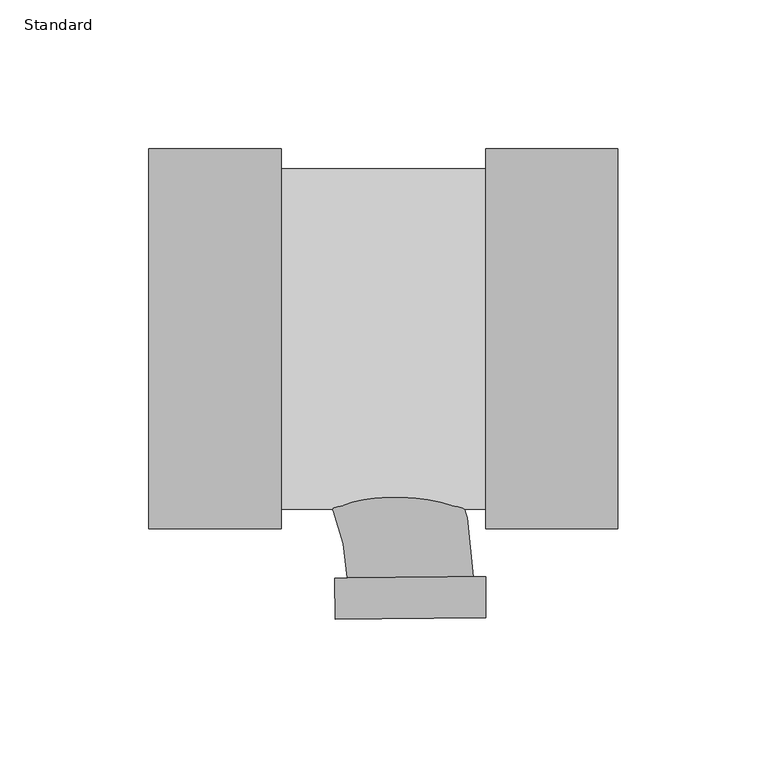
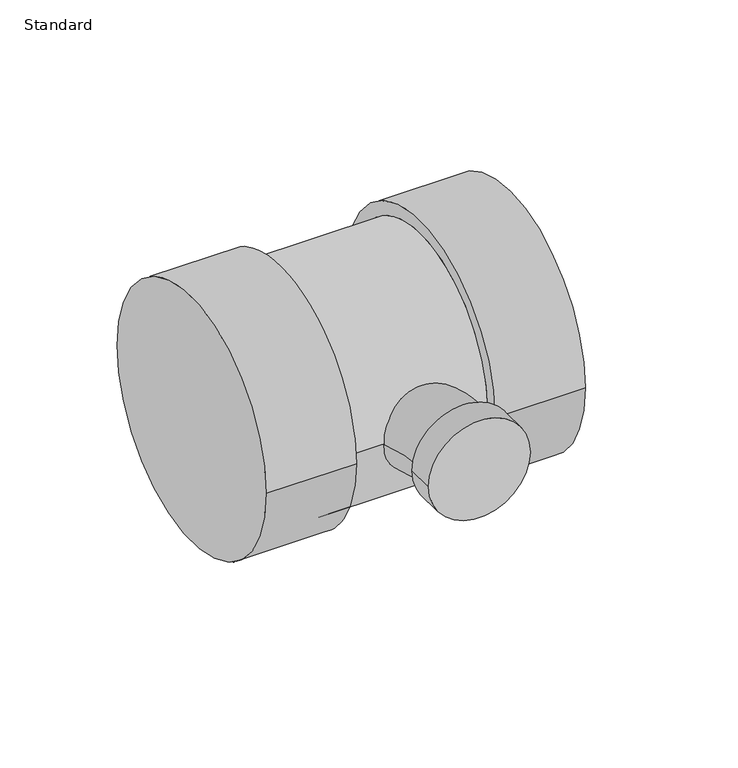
"""IFC4 building model written with IfcOpenShell, lengths in millimetres: pipe fitting geometry, EG-RCAN Té sanitaire de réduction - PVC - Nom. 40 - DWV : Standard."""

from ifc_helpers import new_model, si_unit, point, frame, origin, place, context, project, spatial, circle_curve, ellipse_curve, trimmed, source, transform, mapped, element, save
from ifc_brep_helpers import plane_surface, cylinder_surface, revolved_surface, advanced_brep


def standard_4615a4a5(model_context):
    return source(origin(), model_context, "Body", "AdvancedBrep", [
        advanced_brep(
        [(26.0660827, -63.754, 0.0), (26.0660827, 63.754, 0.0), (26.0660827, -57.15, 0.0), (26.0660827, 57.15, 0.0), (70.5160827, -63.754, 0.0), (70.5160827, 63.754, 0.0), (-42.4599062, 57.15, 0.0), (-42.4599062, -57.15, 0.0), (-86.9099063, -63.754, 0.0), (-86.9099062, 63.754, 0.0), (-42.4599063, -63.754, 0.0), (-42.4599062, 63.754, 0.0)],
        [
            (0, 1, circle_curve(frame((26.0660827, 0.0, 0.0), z_axis=(-1.0, 0.0, 0.0), x_axis=(0.0, 1.0, 0.0)), 63.754)),
            (1, 0, circle_curve(frame((26.0660827, 0.0, 0.0), z_axis=(-1.0, 0.0, 0.0), x_axis=(0.0, 1.0, 0.0)), 63.754)),
            (2, 3, circle_curve(frame((26.0660827, 0.0, 0.0), z_axis=(1.0, 0.0, 0.0), x_axis=(0.0, 0.0, -1.0)), 57.15)),
            (3, 2, circle_curve(frame((26.0660827, 0.0, 0.0), z_axis=(1.0, 0.0, 0.0), x_axis=(0.0, 0.0, 1.0)), 57.15)),
            (4, 5, circle_curve(frame((70.5160827, 0.0, 0.0), z_axis=(1.0, 0.0, 0.0), x_axis=(0.0, 1.0, 0.0)), 63.754)),
            (5, 4, circle_curve(frame((70.5160827, 0.0, 0.0), z_axis=(1.0, 0.0, 0.0), x_axis=(0.0, 1.0, 0.0)), 63.754)),
            (0, 4),
            (5, 1),
            (6, 3),
            (2, 7),
            (7, 6, circle_curve(frame((-42.4599063, 0.0, 0.0), z_axis=(1.0, 0.0, 0.0), x_axis=(0.0, 0.0, -1.0)), 57.15)),
            (6, 7, circle_curve(frame((-42.4599062, 0.0, 0.0), z_axis=(1.0, 0.0, 0.0), x_axis=(0.0, 0.0, 1.0)), 57.15)),
            (8, 9, circle_curve(frame((-86.9099062, 0.0, 0.0), z_axis=(-1.0, 0.0, 0.0), x_axis=(0.0, 1.0, 0.0)), 63.754)),
            (9, 8, circle_curve(frame((-86.9099062, 0.0, 0.0), z_axis=(-1.0, 0.0, 0.0), x_axis=(0.0, 1.0, 0.0)), 63.754)),
            (10, 11, circle_curve(frame((-42.4599062, 0.0, 0.0), z_axis=(1.0, 0.0, 0.0), x_axis=(0.0, 1.0, 0.0)), 63.754)),
            (11, 10, circle_curve(frame((-42.4599062, 0.0, 0.0), z_axis=(1.0, 0.0, 0.0), x_axis=(0.0, 1.0, 0.0)), 63.754)),
            (8, 10),
            (11, 9),
        ],
        [
            plane_surface(frame((26.0660827, 0.0, 0.0), z_axis=(-1.0, 0.0, 0.0), x_axis=(0.0, 0.0, 1.0))),
            plane_surface(frame((70.5160827, 0.0, 0.0), z_axis=(1.0, 0.0, 0.0), x_axis=(0.0, 0.0, 1.0))),
            cylinder_surface(frame((26.0660827, 0.0, 0.0), z_axis=(-1.0, 0.0, 0.0), x_axis=(0.0, 1.0, 0.0)), 63.754),
            cylinder_surface(frame((-42.4599062, 0.0, 0.0), z_axis=(1.0, 0.0, 0.0), x_axis=(0.0, 0.0, -1.0)), 57.15),
            cylinder_surface(frame((-42.4599062, 0.0, 0.0), z_axis=(1.0, 0.0, 0.0), x_axis=(0.0, 0.0, 1.0)), 57.15),
            plane_surface(frame((-86.9099062, 0.0, 0.0), z_axis=(-1.0, 0.0, 0.0), x_axis=(0.0, 0.0, 1.0))),
            plane_surface(frame((-42.4599062, 0.0, 0.0), z_axis=(1.0, 0.0, 0.0), x_axis=(0.0, 0.0, 1.0))),
            cylinder_surface(frame((-86.9099062, 0.0, 0.0), z_axis=(-1.0, 0.0, 0.0), x_axis=(0.0, 1.0, 0.0)), 63.754),
        ],
        [
            (0, [[1, 2], [3, 4]]),
            (1, [[5, 6]]),
            (2, [[-1, 7, -6, 8]]),
            (2, [[-2, -8, -5, -7]]),
            (3, [[9, -3, 10, 11]]),
            (4, [[-9, 12, -10, -4]]),
            (5, [[13, 14]]),
            (6, [[15, 16], [-11, -12]]),
            (7, [[-13, 17, -16, 18]]),
            (7, [[-14, -18, -15, -17]]),
        ],
    ),
        advanced_brep(
        [(-24.4656096, -80.2763136, 0.0), (26.0660827, -79.7709967, 0.0), (22.0032389, -79.8116251, 0.0), (-20.4027658, -80.2356852, 0.0), (-24.3282133, -94.0159392, 0.0), (26.2034789, -93.5106222, 0.0), (-80.0276562, -21.2040625, 0.0), (-80.0276562, 21.2040625, 0.0)],
        [
            (0, 1, circle_curve(frame((0.8002366, -80.0236552, 0.0), z_axis=(-0.009999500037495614, 0.9999500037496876, 0.0), x_axis=(0.9999500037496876, 0.009999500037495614, 0.0)), 25.2671094)),
            (1, 0, circle_curve(frame((0.8002366, -80.0236552, 0.0), z_axis=(-0.009999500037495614, 0.9999500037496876, 0.0), x_axis=(0.9999500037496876, 0.009999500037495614, 0.0)), 25.2671094)),
            (2, 3, circle_curve(frame((0.8002366, -80.0236552, 0.0), z_axis=(0.009999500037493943, -0.9999500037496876, 0.0), x_axis=(0.9999500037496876, 0.009999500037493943, 0.0)), 21.2040625)),
            (3, 2, circle_curve(frame((0.8002366, -80.0236552, 0.0), z_axis=(0.009999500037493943, -0.9999500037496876, 0.0), x_axis=(0.9999500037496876, 0.009999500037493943, 0.0)), 21.2040625)),
            (4, 5, circle_curve(frame((0.9376328, -93.7632807, 0.0), z_axis=(0.009999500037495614, -0.9999500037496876, 0.0), x_axis=(0.9999500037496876, 0.009999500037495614, 0.0)), 25.2671094)),
            (5, 4, circle_curve(frame((0.9376328, -93.7632807, 0.0), z_axis=(0.009999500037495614, -0.9999500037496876, 0.0), x_axis=(0.9999500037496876, 0.009999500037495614, 0.0)), 25.2671094)),
            (0, 4),
            (5, 1),
            (6, 7, circle_curve(frame((-80.0276562, 0.0, 0.0), z_axis=(-1.0, 0.0, 0.0), x_axis=(0.0, 1.0, 0.0)), 21.2040625)),
            (7, 6, circle_curve(frame((-80.0276562, 0.0, 0.0), z_axis=(-1.0, 0.0, 0.0), x_axis=(0.0, 1.0, 0.0)), 21.2040625)),
            (6, 3, circle_curve(frame((-80.0276562, -80.8319341, 0.0), z_axis=(0.0, 0.0, -1.0), x_axis=(0.0, 1.0, 0.0)), 59.6278716)),
            (2, 7, circle_curve(frame((-80.0276562, -80.8319341, 0.0), z_axis=(0.0, 0.0, 1.0), x_axis=(0.0, 1.0, 0.0)), 102.0359966)),
        ],
        [
            plane_surface(frame((0.8002366, -80.0236552, 0.0), z_axis=(-0.009999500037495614, 0.9999500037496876, 0.0), x_axis=(0.0, 0.0, 1.0))),
            plane_surface(frame((0.9376328, -93.7632807, 0.0), z_axis=(0.009999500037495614, -0.9999500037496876, 0.0), x_axis=(0.0, 0.0, 1.0))),
            cylinder_surface(frame((0.8002366, -80.0236552, 0.0), z_axis=(-0.009999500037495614, 0.9999500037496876, 0.0), x_axis=(0.9999500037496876, 0.009999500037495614, 0.0)), 25.2671094),
            plane_surface(frame((-80.0276562, 0.0, 0.0), z_axis=(-1.0, 0.0, 0.0), x_axis=(0.0, 0.0, 1.0))),
            revolved_surface(trimmed(ellipse_curve(frame((-80.0276562, 0.0, 0.0), z_axis=(-1.0, 0.0, 0.0), x_axis=(0.0, 1.0, 0.0)), 21.2040625, 21.2040625), [point((-80.0276562, -21.2040625, 0.0))], [point((-80.0276562, 21.2040625, 0.0))], True, "CARTESIAN"), (-80.0276562, -80.8319341, 0.0), (0.0, 0.0, -1.0)),
            revolved_surface(trimmed(ellipse_curve(frame((-80.0276562, 0.0, 0.0), z_axis=(-1.0, 0.0, 0.0), x_axis=(0.0, 1.0, 0.0)), 21.2040625, 21.2040625), [point((-80.0276562, 21.2040625, 0.0))], [point((-80.0276562, -21.2040625, 0.0))], True, "CARTESIAN"), (-80.0276562, -80.8319341, 0.0), (0.0, 0.0, -1.0)),
        ],
        [
            (0, [[1, 2], [3, 4]]),
            (1, [[5, 6]]),
            (2, [[-1, 7, -6, 8]]),
            (2, [[-2, -8, -5, -7]]),
            (3, [[9, 10]]),
            (4, [[-9, 11, -3, 12]]),
            (5, [[-10, -12, -4, -11]]),
        ],
    ),
    ])


if __name__ == "__main__":
    model = new_model("IFC4")
    model_context = context("Model", 3, world=origin())
    ifc_project = project(units=[si_unit("LENGTHUNIT", "METRE", prefix="MILLI")], contexts=[model_context])
    site = spatial("IfcSite", under=ifc_project)
    building = spatial("IfcBuilding", under=site)
    placement = place(None, origin())
    standard_shape = standard_4615a4a5(model_context)
    element("IfcPipeFitting", 1, ObjectType="EG-RCAN Té sanitaire de réduction - PVC - Nom. 40 - DWV : Standard", at=placement, inside=building, context=model_context, shape_type="MappedRepresentation", body=[
        mapped(standard_shape, transform((0.0, 0.0, 0.0), x_axis=(1.0, 0.0, 0.0), y_axis=(0.0, 1.0, 0.0), z_axis=(0.0, 0.0, 1.0))),
    ])
    save(model, "model.ifc")
